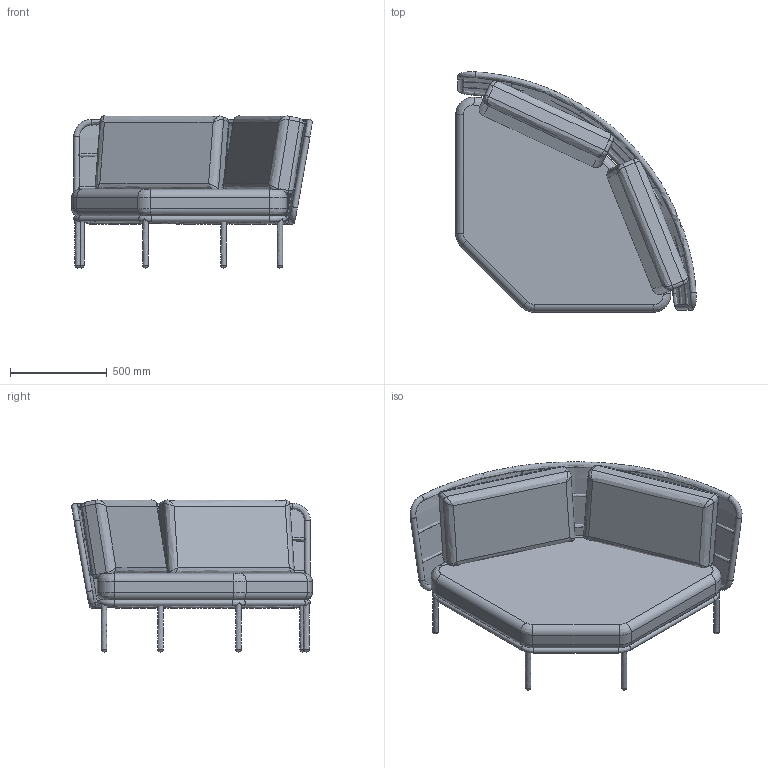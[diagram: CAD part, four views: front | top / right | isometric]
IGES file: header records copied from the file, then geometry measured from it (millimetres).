
Global section: file name: Vincentsheppard_Kodo_Mod_Corner; native system: unknown; preprocessor: unknown; author: unknown; organization: unknown; date: 20220919.152101; units: millimetre
Bounding box: 1242.38 x 1242.42 x 785.61 mm (x, y, z)
Volume: 212599647 mm3; surface area: 7289737.1 mm2
Topology: 52 solids, 54 shells, 889 faces, 2476 edges, 1661 vertices
Faces by surface type: bspline 888, revolution 1
